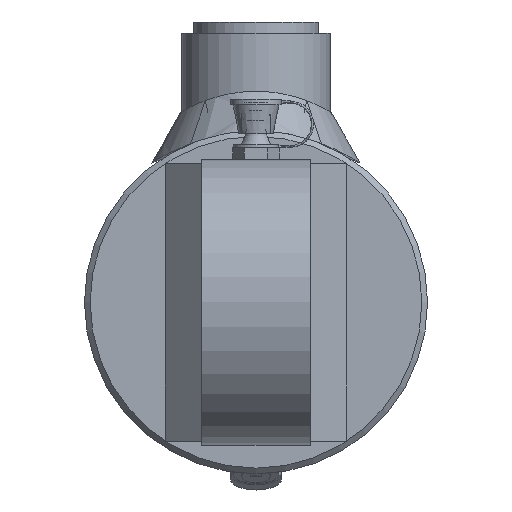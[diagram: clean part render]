
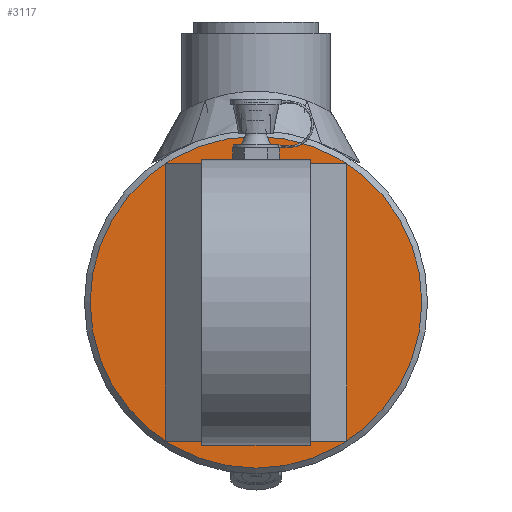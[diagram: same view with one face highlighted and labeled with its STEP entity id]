
A CAD part, left-side view. The second image highlights one B-rep face of the part: STEP entity #3117.
In plain terms, the highlighted planar face has unit normal (-1, 0, 0).
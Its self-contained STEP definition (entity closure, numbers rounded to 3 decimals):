
#3117 = ADVANCED_FACE( '', ( #7295 ), #7296, .T. );
#7295 = FACE_OUTER_BOUND( '', #9221, .T. );
#7296 = PLANE( '', #9222 );
#9221 = EDGE_LOOP( '', ( #9990 ) );
#9222 = AXIS2_PLACEMENT_3D( '', #9991, #9992, #9993 );
#9990 = ORIENTED_EDGE( '', *, *, #11130, .T. );
#9991 = CARTESIAN_POINT( '', ( -10., 0., 0. ) );
#9992 = DIRECTION( '', ( -1., 0., 0. ) );
#9993 = DIRECTION( '', ( 0., -1., 0. ) );
#11130 = EDGE_CURVE( '', #13658, #13658, #13659, .T. );
#13658 = VERTEX_POINT( '', #14500 );
#13659 = CIRCLE( '', #14501, 29. );
#14500 = CARTESIAN_POINT( '', ( -10., -29., 0. ) );
#14501 = AXIS2_PLACEMENT_3D( '', #14612, #14613, #14614 );
#14612 = CARTESIAN_POINT( '', ( -10., 0., 0. ) );
#14613 = DIRECTION( '', ( -1., 0., 0. ) );
#14614 = DIRECTION( '', ( 0., -1., 0. ) );
